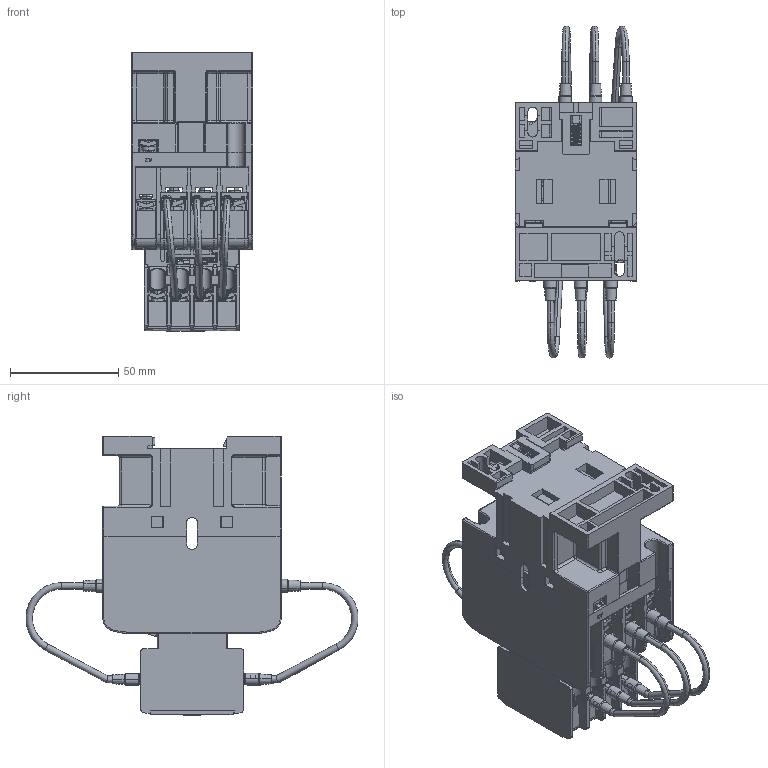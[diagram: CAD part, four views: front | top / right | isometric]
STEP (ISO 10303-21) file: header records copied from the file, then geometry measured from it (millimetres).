
FILE_DESCRIPTION((''),'2;1');
FILE_NAME('2TZD_400_1065_SW0002','2022-04-11T',('wangchen1'),(''),'PRO/ENGINEER BY PARAMETRIC TECHNOLOGY CORPORATION, 2017170','PRO/ENGINEER BY PARAMETRIC TECHNOLOGY CORPORATION, 2017170','');
FILE_SCHEMA(('CONFIG_CONTROL_DESIGN'));
Products named in the file (1): 2TZD_400_1065_SW0002
Bounding box: 56 x 153.12 x 128.7 mm (x, y, z)
Surface area: 161105.7 mm2 (no closed solid volume)
Topology: 0 solids, 225 shells, 4110 faces, 16908 edges, 12461 vertices
Faces by surface type: plane 2685, cylinder 1015, cone 147, torus 100, sphere 85, bspline 78
Entity records: 214360 total; most frequent: CARTESIAN_POINT 59731, DIRECTION 26513, ORIENTED_EDGE 25992, EDGE_CURVE 16898, VECTOR 12797, LINE 12797, VERTEX_POINT 12461, AXIS2_PLACEMENT_3D 6858
